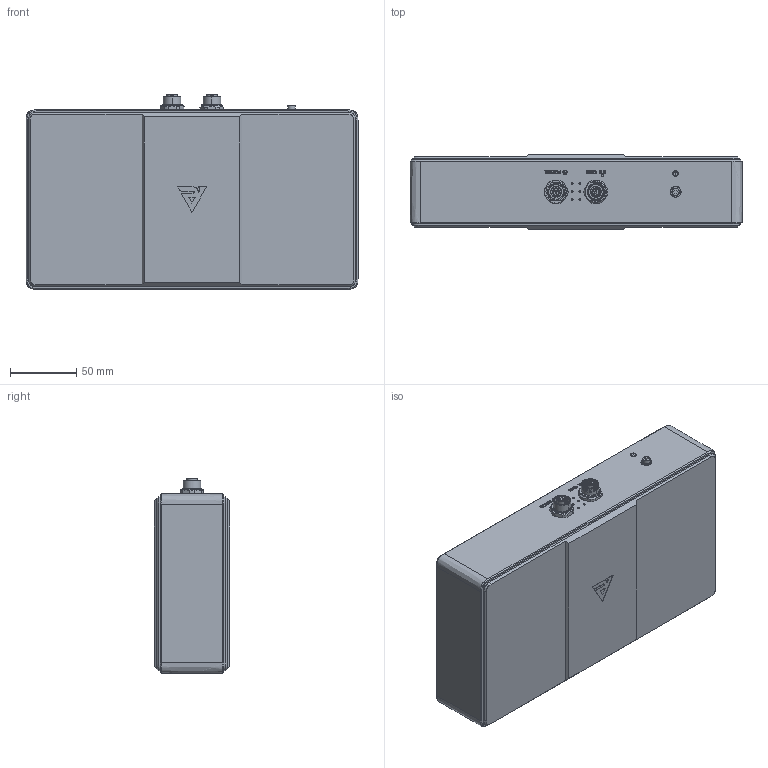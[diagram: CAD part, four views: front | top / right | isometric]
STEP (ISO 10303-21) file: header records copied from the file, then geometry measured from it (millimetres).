
FILE_DESCRIPTION(/* description */ (''),/* implementation_level */ '2;1');
FILE_NAME(/* name */ 'RVC-P3270',/* time_stamp */ '2024-01-17T17:21:41+08:00',/* author */ (''),/* organization */ (''),/* preprocessor_version */ 'ST-DEVELOPER v16.5',/* originating_system */ 'Rhino 7.25',/* authorisation */ '');
FILE_SCHEMA (('CONFIG_CONTROL_DESIGN'));
Length unit declared in the file: millimetre
Products named in the file (1): Document
Bounding box: 250 x 57 x 146.6 mm (x, y, z)
Volume: 1795125.4 mm3; surface area: 112766.6 mm2
Topology: 1 solids, 1 shells, 802 faces, 1964 edges, 1262 vertices
Faces by surface type: plane 401, cylinder 209, bspline 192
Entity records: 38558 total; most frequent: CARTESIAN_POINT 22521, ORIENTED_EDGE 3912, EDGE_CURVE 1956, B_SPLINE_CURVE_WITH_KNOTS 1348, VERTEX_POINT 1262, EDGE_LOOP 914, ADVANCED_FACE 802, FACE_OUTER_BOUND 802
